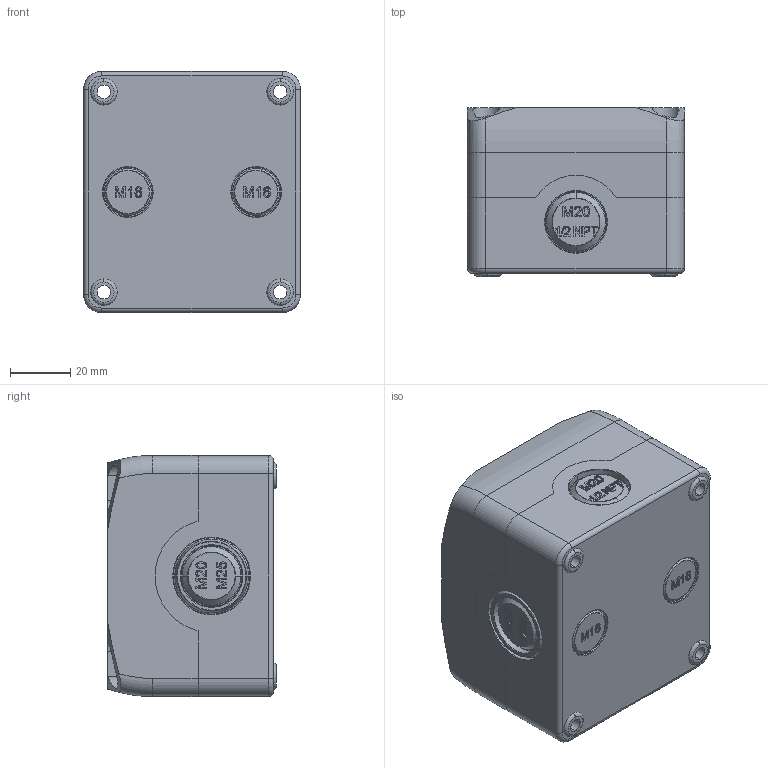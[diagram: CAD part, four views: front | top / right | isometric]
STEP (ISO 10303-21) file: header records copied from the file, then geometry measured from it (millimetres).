
FILE_DESCRIPTION (( 'STEP AP214' ), '1' );
FILE_NAME ('ZF_STEP_ES_31000.step', '2016-09-07T12:30:04', ( 'Pizzato Elettrica' ), ( '' ), 'SwSTEP 2.0', 'SolidWorks 2014', '' );
FILE_SCHEMA (( 'AUTOMOTIVE_DESIGN' ));
Length unit declared in the file: millimetre
Products named in the file (3): 24171_3DWeb_24151; 24170_3DWeb_24150; ZF_STEP_ES_31000
Assembly tree (2 placements, depth 2):
  ZF_STEP_ES_31000
    24170_3DWeb_24150
    24171_3DWeb_24151
Bounding box: 72 x 56 x 80 mm (x, y, z)
Volume: 287153.7 mm3; surface area: 51384.4 mm2
Topology: 2 solids, 2 shells, 780 faces, 1983 edges, 1294 vertices
Faces by surface type: plane 354, bspline 196, cylinder 118, torus 76, cone 28, sphere 8
Entity records: 34081 total; most frequent: CARTESIAN_POINT 16098, ORIENTED_EDGE 3966, DIRECTION 3181, EDGE_CURVE 1983, VERTEX_POINT 1294, LINE 1115, VECTOR 1115, AXIS2_PLACEMENT_3D 1033
